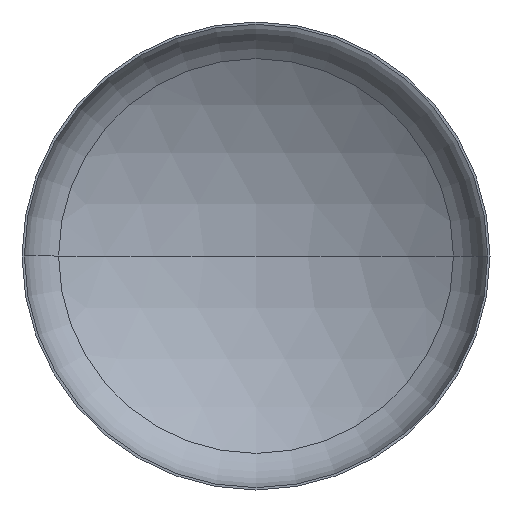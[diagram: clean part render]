
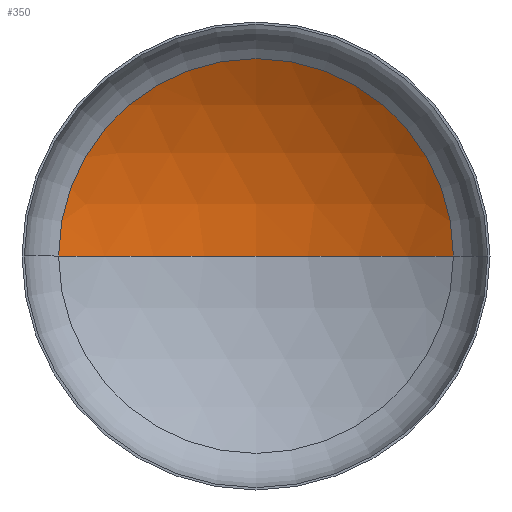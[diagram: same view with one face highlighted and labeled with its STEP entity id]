
A CAD part, front view. The second image highlights one B-rep face of the part: STEP entity #350.
In plain terms, the highlighted spherical face has radius 1600 mm.
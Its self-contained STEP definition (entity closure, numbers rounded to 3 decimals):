
#11 = EDGE_LOOP ( 'NONE', ( #27, #265, #88 ) ) ;
#24 = VERTEX_POINT ( 'NONE', #226 ) ;
#27 = ORIENTED_EDGE ( 'NONE', *, *, #41, .F. ) ;
#32 = VERTEX_POINT ( 'NONE', #224 ) ;
#41 = EDGE_CURVE ( 'NONE', #65, #32, #180, .T. ) ;
#63 = CARTESIAN_POINT ( 'NONE',  ( 0., -1066.221, 0. ) ) ;
#65 = VERTEX_POINT ( 'NONE', #280 ) ;
#78 = AXIS2_PLACEMENT_3D ( 'NONE', #181, #342, #339 ) ;
#88 = ORIENTED_EDGE ( 'NONE', *, *, #137, .T. ) ;
#98 = EDGE_CURVE ( 'NONE', #65, #24, #326, .T. ) ;
#102 = CIRCLE ( 'NONE', #147, 843.411 ) ;
#112 = FACE_OUTER_BOUND ( 'NONE', #11, .T. ) ;
#137 = EDGE_CURVE ( 'NONE', #24, #32, #102, .T. ) ;
#147 = AXIS2_PLACEMENT_3D ( 'NONE', #299, #291, #287 ) ;
#174 = AXIS2_PLACEMENT_3D ( 'NONE', #63, #406, #198 ) ;
#180 = CIRCLE ( 'NONE', #400, 1600. ) ;
#181 = CARTESIAN_POINT ( 'NONE',  ( 0., -1066.221, 0. ) ) ;
#198 = DIRECTION ( 'NONE',  ( -1., 0., 0. ) ) ;
#211 = DIRECTION ( 'NONE',  ( 0., 0., 1. ) ) ;
#213 = CARTESIAN_POINT ( 'NONE',  ( 0., -1066.221, 0. ) ) ;
#224 = CARTESIAN_POINT ( 'NONE',  ( -843.411, 293.433, 0. ) ) ;
#226 = CARTESIAN_POINT ( 'NONE',  ( 843.411, 293.433, 0. ) ) ;
#265 = ORIENTED_EDGE ( 'NONE', *, *, #98, .T. ) ;
#280 = CARTESIAN_POINT ( 'NONE',  ( 0., 533.779, 0. ) ) ;
#287 = DIRECTION ( 'NONE',  ( 1., 0., 0. ) ) ;
#291 = DIRECTION ( 'NONE',  ( 0., -1., 0. ) ) ;
#299 = CARTESIAN_POINT ( 'NONE',  ( 0., 293.433, 0. ) ) ;
#326 = CIRCLE ( 'NONE', #78, 1600. ) ;
#336 = DIRECTION ( 'NONE',  ( 1., 0., 0. ) ) ;
#337 = SPHERICAL_SURFACE ( 'NONE', #174, 1600. ) ;
#339 = DIRECTION ( 'NONE',  ( -1., 0., 0. ) ) ;
#342 = DIRECTION ( 'NONE',  ( 0., 0., -1. ) ) ;
#350 = ADVANCED_FACE ( 'NONE', ( #112 ), #337, .F. ) ;
#400 = AXIS2_PLACEMENT_3D ( 'NONE', #213, #211, #336 ) ;
#406 = DIRECTION ( 'NONE',  ( 0., 0., -1. ) ) ;
